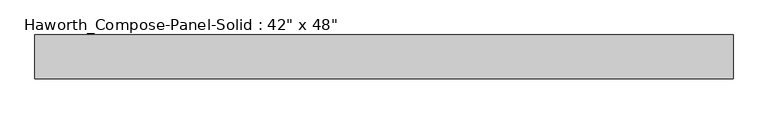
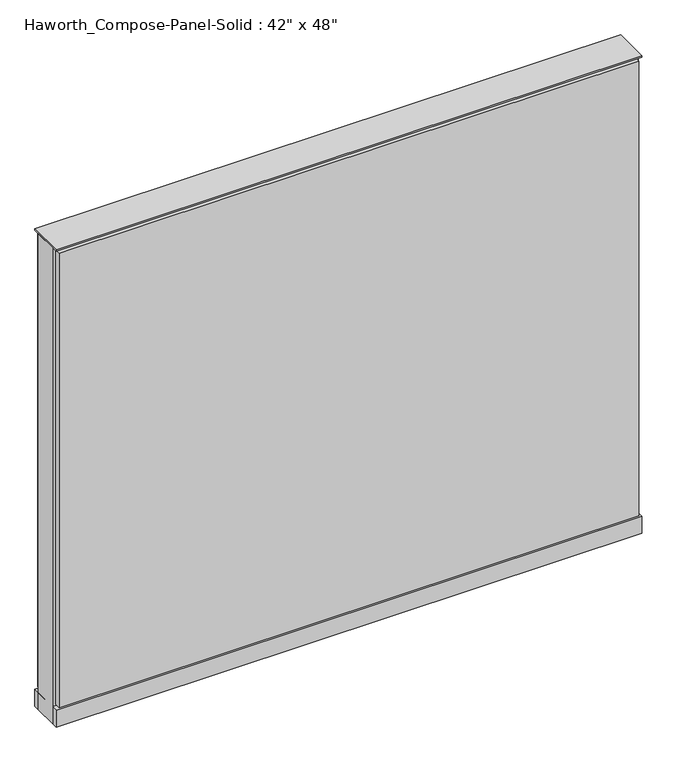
"""IFC4 building model written with IfcOpenShell, lengths in millimetres: furniture geometry."""

import ifcopenshell
import ifcopenshell.guid

model = None  # the IFC model being written
_history = None  # IfcOwnerHistory: only IFC2X3 demands one
_inside = {}  # id of a spatial element -> (the spatial element, [elements in it])
_under = {}  # id of a project, library or spatial element -> (it, [spatial elements below it])
_declared = {}  # id of a project -> (the project, [libraries it declares])
_typed = {}  # id of a type object -> (the type object, [elements of that type])
_made_of = {}  # id of a material, layer set ... -> (it, [elements and type objects made of it])


def new_model(schema):
    """Start an empty IFC model of exactly this schema.

    Asked for "IFC4X3", IfcOpenShell would pick the latest addendum, in which some entities
    have other attributes; the version numbers below select the first issue.
    IFC2X3 requires an IfcOwnerHistory on every rooted entity: one is made here for all.
    """
    global model, _history
    if schema == "IFC4X3":
        model = ifcopenshell.file(schema_version=(4, 3, 0, 0))
    else:
        model = ifcopenshell.file(schema=schema)
    _inside.clear()
    _under.clear()
    _declared.clear()
    _typed.clear()
    _made_of.clear()
    _history = None
    if model.schema == "IFC2X3":
        org = make("IfcOrganization", Name="unknown")
        user = make(
            "IfcPersonAndOrganization",
            ThePerson=make("IfcPerson", FamilyName="unknown"),
            TheOrganization=org,
        )
        app = make(
            "IfcApplication",
            ApplicationDeveloper=org,
            Version="unknown",
            ApplicationFullName="unknown",
            ApplicationIdentifier="unknown",
        )
        _history = make(
            "IfcOwnerHistory",
            OwningUser=user,
            OwningApplication=app,
            ChangeAction="ADDED",
            CreationDate=0,
        )
    return model


def make(cls, **values):
    """One entity of the class cls with the attributes given. An attribute that is None is left unset."""
    return model.create_entity(
        cls, **{name: value for name, value in values.items() if value is not None}
    )


def rooted(cls, **values):
    """An entity with a GlobalId (a new one), such as an element, a storey or a relation."""
    return make(cls, GlobalId=ifcopenshell.guid.new(), OwnerHistory=_history, **values)


def si_unit(unit_type, name, prefix=None):
    """IfcSIUnit, for example si_unit("LENGTHUNIT", "METRE", prefix="MILLI")."""
    return make("IfcSIUnit", UnitType=unit_type, Prefix=prefix, Name=name)


def assignment(units):
    """IfcUnitAssignment: the units of a project."""
    return None if units is None else make("IfcUnitAssignment", Units=units)


def point(xyz):
    """IfcCartesianPoint."""
    return None if xyz is None else make("IfcCartesianPoint", Coordinates=xyz)


def direction(xyz):
    """IfcDirection."""
    return None if xyz is None else make("IfcDirection", DirectionRatios=xyz)


def frame(location, z_axis=None, x_axis=None):
    """IfcAxis2Placement3D, a coordinate frame: its origin and axes. An axis left out is left unset."""
    return make(
        "IfcAxis2Placement3D",
        Location=point(location),
        Axis=direction(z_axis),
        RefDirection=direction(x_axis),
    )


def frame_2d(location, x_axis=None):
    """IfcAxis2Placement2D, a coordinate frame in the plane: its origin and x axis."""
    return make(
        "IfcAxis2Placement2D", Location=point(location), RefDirection=direction(x_axis)
    )


def origin():
    """The frame at (0, 0, 0) with its axes left unset."""
    return frame((0.0, 0.0, 0.0))


def origin_with_axes():
    """The frame at (0, 0, 0) with the z axis (0, 0, 1) and the x axis (1, 0, 0) written out."""
    return frame((0.0, 0.0, 0.0), z_axis=(0.0, 0.0, 1.0), x_axis=(1.0, 0.0, 0.0))


def place(relative_to, where):
    """IfcLocalPlacement: puts the frame where relative to a parent placement (None: the world)."""
    return make(
        "IfcLocalPlacement", PlacementRelTo=relative_to, RelativePlacement=where
    )


def context(
    kind, dimensions, precision=None, world=None, true_north=None, identifier=None
):
    """IfcGeometricRepresentationContext, for example the 3D "Model" context."""
    return make(
        "IfcGeometricRepresentationContext",
        ContextIdentifier=identifier,
        ContextType=kind,
        CoordinateSpaceDimension=dimensions,
        Precision=precision,
        WorldCoordinateSystem=world,
        TrueNorth=true_north,
    )


def project(units=None, contexts=None):
    """IfcProject with its units and contexts."""
    return rooted(
        "IfcProject",
        Name="project",
        RepresentationContexts=contexts,
        UnitsInContext=assignment(units),
    )


def spatial(cls, under=None, at=None, **own):
    """A site, building, storey or space (cls), placed at a placement, below another one or the project."""
    s = rooted(cls, ObjectPlacement=at, **own)
    if under is not None:
        _under.setdefault(under.id(), (under, []))[1].append(s)
    return s


def polyline(points):
    """IfcPolyline through the points."""
    return make("IfcPolyline", Points=[point(p) for p in points])


def circle_curve(where, radius):
    """IfcCircle in the frame where."""
    return make("IfcCircle", Position=where, Radius=radius)


def trimmed(basis, trim1, trim2, sense, master):
    """IfcTrimmedCurve: the piece of a basis curve between two trims."""
    return make(
        "IfcTrimmedCurve",
        BasisCurve=basis,
        Trim1=trim1,
        Trim2=trim2,
        SenseAgreement=sense,
        MasterRepresentation=master,
    )


def segment(curve, same_sense, transition):
    """IfcCompositeCurveSegment."""
    return make(
        "IfcCompositeCurveSegment",
        Transition=transition,
        SameSense=same_sense,
        ParentCurve=curve,
    )


def composite_curve(segments, self_intersect=None):
    """IfcCompositeCurve: segments joined end to end."""
    return make("IfcCompositeCurve", Segments=segments, SelfIntersect=self_intersect)


def outline(outer, holes=None, kind="AREA"):
    """IfcArbitraryClosedProfileDef: a profile drawn as a closed curve; with holes, ...WithVoids."""
    if holes is None:
        return make("IfcArbitraryClosedProfileDef", ProfileType=kind, OuterCurve=outer)
    return make(
        "IfcArbitraryProfileDefWithVoids",
        ProfileType=kind,
        OuterCurve=outer,
        InnerCurves=holes,
    )


def extrude(swept, where, along, depth):
    """IfcExtrudedAreaSolid: the profile swept, set in the frame where, extruded along a direction by depth."""
    return make(
        "IfcExtrudedAreaSolid",
        SweptArea=swept,
        Position=where,
        ExtrudedDirection=direction(along),
        Depth=depth,
    )


def shape(context_of_items, identifier, shape_type, items):
    """IfcShapeRepresentation: the items that make up one representation, for example the "Body"."""
    return make(
        "IfcShapeRepresentation",
        ContextOfItems=context_of_items,
        RepresentationIdentifier=identifier,
        RepresentationType=shape_type,
        Items=items,
    )


def source(mapping_origin, context_of_items, identifier, shape_type, items):
    """IfcRepresentationMap: a shape defined once, which mapped items show again and again."""
    return make(
        "IfcRepresentationMap",
        MappingOrigin=mapping_origin,
        MappedRepresentation=shape(context_of_items, identifier, shape_type, items),
    )


def transform(
    local_origin,
    x_axis=None,
    y_axis=None,
    z_axis=None,
    scale=None,
    scale2=None,
    scale3=None,
    uniform=True,
):
    """IfcCartesianTransformationOperator3D, or its non-uniform kind. x_axis, y_axis, z_axis: its Axis1, 2, 3."""
    if uniform:
        return make(
            "IfcCartesianTransformationOperator3D",
            Axis1=direction(x_axis),
            Axis2=direction(y_axis),
            LocalOrigin=point(local_origin),
            Scale=scale,
            Axis3=direction(z_axis),
        )
    return make(
        "IfcCartesianTransformationOperator3DnonUniform",
        Axis1=direction(x_axis),
        Axis2=direction(y_axis),
        LocalOrigin=point(local_origin),
        Scale=scale,
        Axis3=direction(z_axis),
        Scale2=scale2,
        Scale3=scale3,
    )


def mapped(mapping_source, mapping_target):
    """IfcMappedItem: shows the shape of a source again, moved by a transform."""
    return make(
        "IfcMappedItem", MappingSource=mapping_source, MappingTarget=mapping_target
    )


def made_of(thing, what):
    """Note that an element or type object is made of a material, layer set ...; save() writes the relation."""
    if what is not None:
        _made_of.setdefault(what.id(), (what, []))[1].append(thing)
    return thing


def element(
    cls,
    number,
    at=None,
    inside=None,
    cuts=None,
    type_object=None,
    material=None,
    context=None,
    identifier="Body",
    shape_type=None,
    held_by="IfcProductDefinitionShape",
    body=None,
    shapes=None,
    **own,
):
    """One element of the class cls, such as IfcWall. Its Tag is "e" and its number.

    at: its placement. inside: the storey or other place that contains it. cuts: it is an
    opening in that element (IfcRelVoidsElement). A single representation is given by context,
    identifier, shape_type and body (its items); several are given by shapes. held_by: the class
    of the entity that holds the representations. save() writes the other relations.
    """
    e = rooted(cls, Tag="e%d" % number, ObjectPlacement=at, **own)
    if body is not None:
        shapes = [shape(context, identifier, shape_type, body)]
    if shapes is not None:
        e.Representation = make(held_by, Representations=shapes)
    if inside is not None:
        _inside.setdefault(inside.id(), (inside, []))[1].append(e)
    if cuts is not None:
        rooted(
            "IfcRelVoidsElement", RelatingBuildingElement=cuts, RelatedOpeningElement=e
        )
    if type_object is not None:
        _typed.setdefault(type_object.id(), (type_object, []))[1].append(e)
    return made_of(e, material)


def aggregate(whole, parts):
    """IfcRelAggregates: a whole, such as a stair, and the parts it consists of."""
    return rooted("IfcRelAggregates", RelatingObject=whole, RelatedObjects=parts)


def save(model, path):
    """Write the relations noted so far, then the file.

    IfcRelAggregates (storeys below a building ...), IfcRelContainedInSpatialStructure (elements
    in a storey), IfcRelDefinesByType, IfcRelAssociatesMaterial and IfcRelDeclares: one each for
    every whole, place, type object, material and project.
    """
    for whole, parts in _under.values():
        aggregate(whole, parts)
    for where, things in _inside.values():
        rooted(
            "IfcRelContainedInSpatialStructure",
            RelatedElements=things,
            RelatingStructure=where,
        )
    for kind, things in _typed.values():
        rooted("IfcRelDefinesByType", RelatedObjects=things, RelatingType=kind)
    for what, things in _made_of.values():
        rooted("IfcRelAssociatesMaterial", RelatedObjects=things, RelatingMaterial=what)
    for by, libraries in _declared.values():
        rooted("IfcRelDeclares", RelatingContext=by, RelatedDefinitions=libraries)
    model.write(path)


def furniture_921a7b7d(model_context):
    return source(origin(), model_context, "Body", "SweptSolid", [
        extrude(outline(composite_curve([segment(trimmed(circle_curve(frame_2d((-530.9597098, 0.0)), 12.7), [point((-543.6597098, 0.0))], [point((-518.2597098, 0.0))], False, "CARTESIAN"), True, "CONTINUOUS"), segment(trimmed(circle_curve(frame_2d((-530.9597098, 0.0)), 12.7), [point((-518.2597098, 0.0))], [point((-543.6597098, 0.0))], False, "CARTESIAN"), True, "CONTINUOUS")], self_intersect=False)), origin_with_axes(), (0.0, 0.0, 1.0), 12.7),
        extrude(outline(composite_curve([segment(trimmed(circle_curve(frame_2d((535.8402902, 0.0)), 12.7), [point((523.1402902, 0.0))], [point((548.5402902, 0.0))], False, "CARTESIAN"), True, "CONTINUOUS"), segment(trimmed(circle_curve(frame_2d((535.8402902, 0.0)), 12.7), [point((548.5402902, 0.0))], [point((523.1402902, 0.0))], False, "CARTESIAN"), True, "CONTINUOUS")], self_intersect=False)), origin_with_axes(), (0.0, 0.0, 1.0), 12.7),
        extrude(outline(polyline([(605.6902902, 38.1), (605.6902902, 25.4), (-600.8097098, 25.4), (-600.8097098, 38.1), (605.6902902, 38.1)])), frame((0.0, 0.0, 53.975), z_axis=(0.0, 0.0, 1.0), x_axis=(1.0, 0.0, 0.0)), (0.0, 0.0, 1.0), 1000.125),
        extrude(outline(polyline([(605.6902902, -38.1), (-600.8097098, -38.1), (-600.8097098, -25.4), (605.6902902, -25.4), (605.6902902, -38.1)])), frame((0.0, 0.0, 53.975), z_axis=(0.0, 0.0, 1.0), x_axis=(1.0, 0.0, 0.0)), (0.0, 0.0, 1.0), 1000.125),
        extrude(outline(polyline([(612.0402902, 25.4), (612.0402902, -25.4), (-607.1597098, -25.4), (-607.1597098, 25.4), (612.0402902, 25.4)])), frame((0.0, 0.0, 12.7), z_axis=(0.0, 0.0, 1.0), x_axis=(1.0, 0.0, 0.0)), (0.0, 0.0, 1.0), 1047.75),
        extrude(outline(polyline([(-607.1597098, -38.1), (-607.1597098, 38.1), (612.0402902, 38.1), (612.0402902, -38.1), (-607.1597098, -38.1)])), frame((0.0, 0.0, 12.7), z_axis=(0.0, 0.0, 1.0), x_axis=(1.0, 0.0, 0.0)), (0.0, 0.0, 1.0), 38.1),
        extrude(outline(polyline([(-607.1597098, -38.1), (-607.1597098, 38.1), (612.0402902, 38.1), (612.0402902, -38.1), (-607.1597098, -38.1)])), frame((0.0, 0.0, 1060.45), z_axis=(0.0, 0.0, 1.0), x_axis=(1.0, 0.0, 0.0)), (0.0, 0.0, 1.0), 3.175),
    ])


if __name__ == "__main__":
    model = new_model("IFC4")
    model_context = context("Model", 3, world=origin())
    ifc_project = project(units=[si_unit("LENGTHUNIT", "METRE", prefix="MILLI")], contexts=[model_context])
    site = spatial("IfcSite", under=ifc_project)
    building = spatial("IfcBuilding", under=site)
    placement = place(None, origin())
    furniture_shape = furniture_921a7b7d(model_context)
    element("IfcFurniture", 1, ObjectType="Haworth_Compose-Panel-Solid : 42\" x 48\"", at=placement, inside=building, context=model_context, shape_type="MappedRepresentation", body=[
        mapped(furniture_shape, transform((0.0, 0.0, 0.0), x_axis=(1.0, 0.0, 0.0), y_axis=(0.0, 1.0, 0.0), z_axis=(0.0, 0.0, 1.0))),
    ])
    save(model, "model.ifc")
